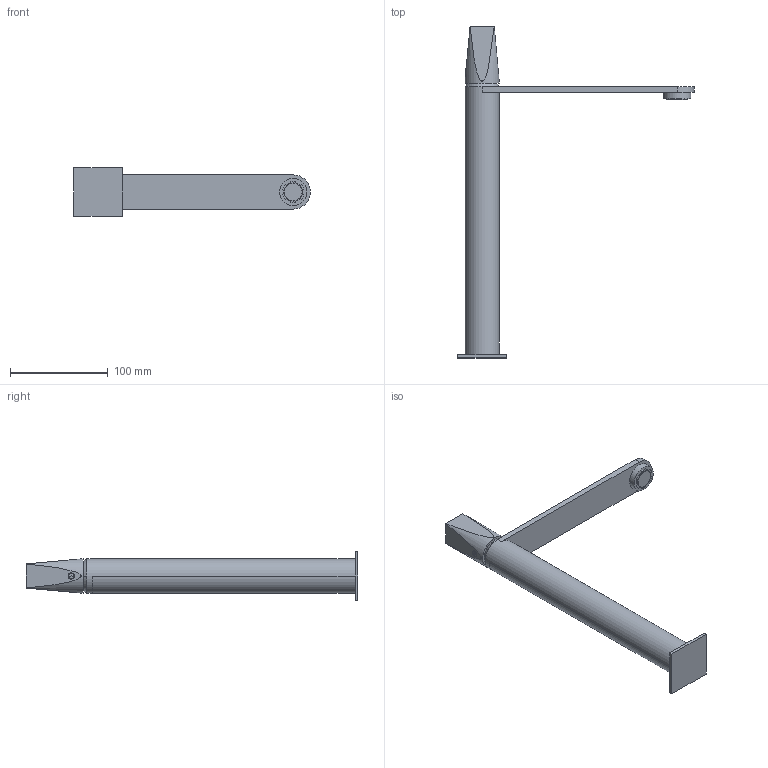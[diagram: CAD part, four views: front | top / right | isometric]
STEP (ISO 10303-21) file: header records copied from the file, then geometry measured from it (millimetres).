
FILE_DESCRIPTION((''),'2;1');
FILE_NAME('4906521_SW0001','2023-09-19T13:25:23',('carloff'),(''),'CREO PARAMETRIC BY PTC INC, 2022014','CREO PARAMETRIC BY PTC INC, 2022014','');
FILE_SCHEMA(('CONFIG_CONTROL_DESIGN'));
Length unit declared in the file: millimetre
Products named in the file (1): 4906521_SW0001
Bounding box: 242.5 x 340.24 x 50 mm (x, y, z)
Volume: 369757.9 mm3; surface area: 59438.8 mm2
Topology: 1 solids, 1 shells, 62 faces, 156 edges, 101 vertices
Faces by surface type: plane 31, cylinder 23, torus 4, bspline 2, sphere 2
Entity records: 2060 total; most frequent: CARTESIAN_POINT 499, DIRECTION 330, ORIENTED_EDGE 308, EDGE_CURVE 154, AXIS2_PLACEMENT_3D 122, VERTEX_POINT 101, VECTOR 86, LINE 86
